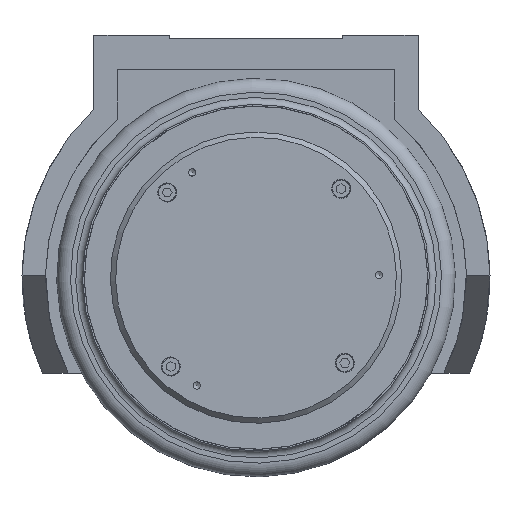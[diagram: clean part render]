
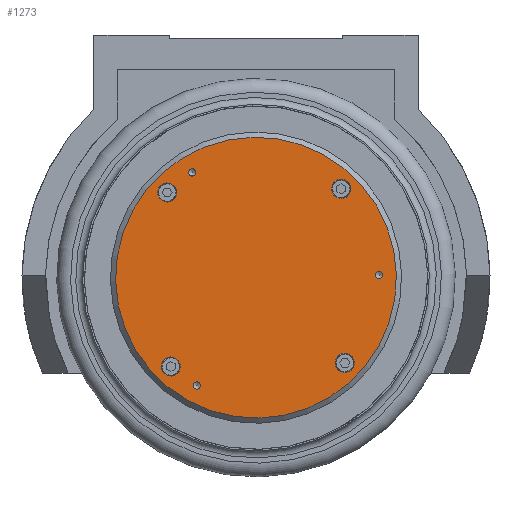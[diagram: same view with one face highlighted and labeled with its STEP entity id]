
A CAD part, front view. The second image highlights one B-rep face of the part: STEP entity #1273.
In plain terms, the highlighted planar face has unit normal (0, -1, 0).
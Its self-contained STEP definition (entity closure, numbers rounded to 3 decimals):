
#1273=ADVANCED_FACE('',(#3914,#3915,#3916,#3917,#3918,#3919,#3920,#3921),#3922,.T.);
#3914=FACE_OUTER_BOUND('',#12067,.T.);
#3915=FACE_BOUND('',#12068,.T.);
#3916=FACE_BOUND('',#12069,.T.);
#3917=FACE_BOUND('',#12070,.T.);
#3918=FACE_BOUND('',#12071,.T.);
#3919=FACE_BOUND('',#12072,.T.);
#3920=FACE_BOUND('',#12073,.T.);
#3921=FACE_BOUND('',#12074,.T.);
#3922=PLANE('',#12075);
#12067=EDGE_LOOP('',(#21968));
#12068=EDGE_LOOP('',(#21969));
#12069=EDGE_LOOP('',(#21970));
#12070=EDGE_LOOP('',(#21971));
#12071=EDGE_LOOP('',(#21972));
#12072=EDGE_LOOP('',(#21973));
#12073=EDGE_LOOP('',(#21974));
#12074=EDGE_LOOP('',(#21975));
#12075=AXIS2_PLACEMENT_3D('',#21976,#21977,#21978);
#21968=ORIENTED_EDGE('',*,*,#24691,.T.);
#21969=ORIENTED_EDGE('',*,*,#24290,.T.);
#21970=ORIENTED_EDGE('',*,*,#24259,.T.);
#21971=ORIENTED_EDGE('',*,*,#26131,.T.);
#21972=ORIENTED_EDGE('',*,*,#26132,.T.);
#21973=ORIENTED_EDGE('',*,*,#26074,.T.);
#21974=ORIENTED_EDGE('',*,*,#25982,.T.);
#21975=ORIENTED_EDGE('',*,*,#24247,.T.);
#21976=CARTESIAN_POINT('',(0.0,-135.5,0.));
#21977=DIRECTION('',(0.0,-1.0,0.));
#21978=DIRECTION('',(-1.0,0.0,0.0));
#24247=EDGE_CURVE('',#28961,#28961,#28962,.T.);
#24259=EDGE_CURVE('',#28983,#28983,#28984,.T.);
#24290=EDGE_CURVE('',#29042,#29042,#29043,.T.);
#24691=EDGE_CURVE('',#29727,#29727,#29728,.T.);
#25982=EDGE_CURVE('',#31746,#31746,#31747,.T.);
#26074=EDGE_CURVE('',#31875,#31875,#31876,.T.);
#26131=EDGE_CURVE('',#31949,#31949,#31950,.T.);
#26132=EDGE_CURVE('',#31951,#31951,#31952,.T.);
#28961=VERTEX_POINT('',#38023);
#28962=CIRCLE('',#38024,5.5);
#28983=VERTEX_POINT('',#38052);
#28984=CIRCLE('',#38053,2.1);
#29042=VERTEX_POINT('',#38118);
#29043=CIRCLE('',#38119,2.1);
#29727=VERTEX_POINT('',#39585);
#29728=CIRCLE('',#39586,81.0);
#31746=VERTEX_POINT('',#42903);
#31747=CIRCLE('',#42904,5.5);
#31875=VERTEX_POINT('',#43095);
#31876=CIRCLE('',#43096,5.5);
#31949=VERTEX_POINT('',#43244);
#31950=CIRCLE('',#43245,2.1);
#31951=VERTEX_POINT('',#43246);
#31952=CIRCLE('',#43247,5.5);
#38023=CARTESIAN_POINT('',(-54.634,-135.5,-51.368));
#38024=AXIS2_PLACEMENT_3D('',#45323,#45324,#45325);
#38052=CARTESIAN_POINT('',(-34.992,-135.5,61.814));
#38053=AXIS2_PLACEMENT_3D('',#45345,#45346,#45347);
#38118=CARTESIAN_POINT('',(71.028,-135.5,-0.603));
#38119=AXIS2_PLACEMENT_3D('',#45421,#45422,#45423);
#39585=CARTESIAN_POINT('',(1.707,-135.5,-80.982));
#39586=AXIS2_PLACEMENT_3D('',#46051,#46052,#46053);
#42903=CARTESIAN_POINT('',(-51.368,-135.5,54.634));
#42904=AXIS2_PLACEMENT_3D('',#48257,#48258,#48259);
#43095=CARTESIAN_POINT('',(54.634,-135.5,51.368));
#43096=AXIS2_PLACEMENT_3D('',#48404,#48405,#48406);
#43244=CARTESIAN_POINT('',(-36.036,-135.5,-61.211));
#43245=AXIS2_PLACEMENT_3D('',#48509,#48510,#48511);
#43246=CARTESIAN_POINT('',(51.368,-135.5,-54.634));
#43247=AXIS2_PLACEMENT_3D('',#48512,#48513,#48514);
#45323=CARTESIAN_POINT('',(-49.135,-135.5,-51.252));
#45324=DIRECTION('',(0.,1.0,0.));
#45325=DIRECTION('',(-1.,0.,-0.021));
#45345=CARTESIAN_POINT('',(-36.788,-135.5,60.726));
#45346=DIRECTION('',(0.,1.0,0.));
#45347=DIRECTION('',(0.855,0.,0.518));
#45421=CARTESIAN_POINT('',(70.984,-135.5,1.497));
#45422=DIRECTION('',(0.,1.0,0.));
#45423=DIRECTION('',(0.021,0.,-1.));
#46051=CARTESIAN_POINT('',(0.0,-135.5,0.));
#46052=DIRECTION('',(0.,-1.0,0.));
#46053=DIRECTION('',(0.021,0.,-1.));
#48257=CARTESIAN_POINT('',(-51.252,-135.5,49.135));
#48258=DIRECTION('',(0.,1.0,0.));
#48259=DIRECTION('',(-0.021,0.,1.));
#48404=CARTESIAN_POINT('',(49.135,-135.5,51.252));
#48405=DIRECTION('',(0.,1.0,0.));
#48406=DIRECTION('',(1.,0.,0.021));
#48509=CARTESIAN_POINT('',(-34.196,-135.5,-62.222));
#48510=DIRECTION('',(0.,1.0,0.));
#48511=DIRECTION('',(-0.876,0.,0.482));
#48512=CARTESIAN_POINT('',(51.252,-135.5,-49.135));
#48513=DIRECTION('',(0.,1.0,0.));
#48514=DIRECTION('',(0.021,0.,-1.));
